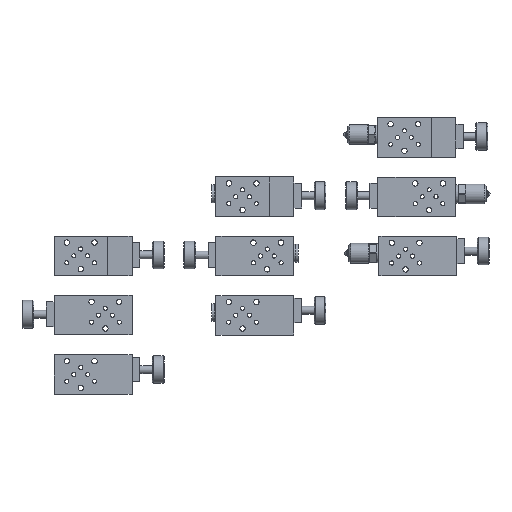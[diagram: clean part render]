
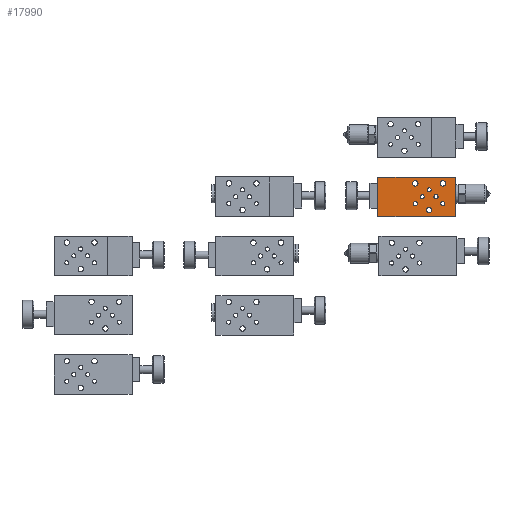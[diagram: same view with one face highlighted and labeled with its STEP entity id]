
A CAD part, top view. The second image highlights one B-rep face of the part: STEP entity #17990.
In plain terms, the highlighted planar face has unit normal (0, 0, 1).
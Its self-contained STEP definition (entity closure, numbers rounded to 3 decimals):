
#17990=ADVANCED_FACE('', (#18000,#18010,#18020,#18030,#18040,#18050,
#18060,#18070,#18080), #18090, .T.);
#89600=AXIS2_PLACEMENT_3D('Ax2Pl3d', #89610, #89620, #89630);
#89840=AXIS2_PLACEMENT_3D('Ax2Pl3d', #89850, #89860, #89870);
#90080=AXIS2_PLACEMENT_3D('Ax2Pl3d', #90090, #90100, #90110);
#90320=AXIS2_PLACEMENT_3D('Ax2Pl3d', #90330, #90340, #90350);
#90560=AXIS2_PLACEMENT_3D('Ax2Pl3d', #90570, #90580, #90590);
#90600=AXIS2_PLACEMENT_3D('Ax2Pl3d', #90610, #90620, #90630);
#90640=AXIS2_PLACEMENT_3D('Ax2Pl3d', #90650, #90660, #90670);
#90680=AXIS2_PLACEMENT_3D('Ax2Pl3d', #90690, #90700, #90710);
#90720=AXIS2_PLACEMENT_3D('Ax2Pl3d', #90730, #90740, #90750);
#193450=CARTESIAN_POINT('', (301.,160.,80.))
;
#193460=CARTESIAN_POINT('', (301.,160.,80.))
;
#193470=CARTESIAN_POINT('', (301.,200.,80.))
;
#89610=CARTESIAN_POINT('HicPkt', (367.,173.,
80.));
#193680=CARTESIAN_POINT('', (367.,175.1,80.))
;
#89850=CARTESIAN_POINT('HicPkt', (360.,180.,
80.));
#193710=CARTESIAN_POINT('', (360.,182.1,80.))
;
#90090=CARTESIAN_POINT('HicPkt', (353.,187.,
80.));
#193740=CARTESIAN_POINT('', (353.,189.1,80.))
;
#90330=CARTESIAN_POINT('HicPkt', (346.,180.,
80.));
#193770=CARTESIAN_POINT('', (346.,182.1,80.))
;
#90570=CARTESIAN_POINT('HicPkt', (339.,173.,
80.));
#193800=CARTESIAN_POINT('', (339.,175.1,80.))
;
#90610=CARTESIAN_POINT('HicPkt', (301.,200.,
80.));
#193810=CARTESIAN_POINT('', (301.,160.,80.))
;
#193820=CARTESIAN_POINT('', (380.,160.,80.))
;
#193830=CARTESIAN_POINT('', (380.,200.,80.))
;
#193840=CARTESIAN_POINT('', (380.,200.,80.))
;
#193850=CARTESIAN_POINT('', (380.,200.,80.))
;
#90650=CARTESIAN_POINT('HicPkt', (367.,193.5,
80.));
#193860=CARTESIAN_POINT('', (367.,196.25,80.))
;
#90690=CARTESIAN_POINT('HicPkt', (339.,193.5,
80.));
#193870=CARTESIAN_POINT('', (339.,196.25,80.))
;
#90730=CARTESIAN_POINT('HicPkt', (353.,166.5,
80.));
#193880=CARTESIAN_POINT('', (353.,169.25,80.))
;
#217210=CIRCLE('Circle', #89600, 2.1);
#217240=CIRCLE('Circle', #89840, 2.1);
#217270=CIRCLE('Circle', #90080, 2.1);
#217300=CIRCLE('Circle', #90320, 2.1);
#217330=CIRCLE('Circle', #90560, 2.1);
#217340=CIRCLE('Circle', #90640, 2.75);
#217350=CIRCLE('Circle', #90680, 2.75);
#217360=CIRCLE('Circle', #90720, 2.75);
#233430=DIRECTION('', (0.,-1.,0.));
#89620=DIRECTION('Axis', (0.,0.,1.));
#89630=DIRECTION('RefDirection', (1.,0.,0.));
#89860=DIRECTION('Axis', (0.,0.,1.));
#89870=DIRECTION('RefDirection', (1.,0.,0.));
#90100=DIRECTION('Axis', (0.,0.,1.));
#90110=DIRECTION('RefDirection', (1.,0.,0.));
#90340=DIRECTION('Axis', (0.,0.,1.));
#90350=DIRECTION('RefDirection', (1.,0.,0.));
#90580=DIRECTION('Axis', (0.,0.,1.));
#90590=DIRECTION('RefDirection', (1.,0.,0.));
#90620=DIRECTION('Axis', (0.,0.,1.));
#90630=DIRECTION('RefDirection', (1.,0.,0.));
#233480=DIRECTION('', (-1.,0.,0.));
#233490=DIRECTION('', (0.,1.,0.));
#233500=DIRECTION('', (1.,0.,0.));
#90660=DIRECTION('Axis', (0.,0.,-1.));
#90670=DIRECTION('RefDirection', (-1.,0.,0.));
#90700=DIRECTION('Axis', (0.,0.,-1.));
#90710=DIRECTION('RefDirection', (-1.,0.,0.));
#90740=DIRECTION('Axis', (0.,0.,-1.));
#90750=DIRECTION('RefDirection', (-1.,0.,0.));
#257680=EDGE_CURVE('', #257690, #257660, #257700, .T.);
#258090=EDGE_CURVE('', #258100, #258100, #217210, .T.);
#258150=EDGE_CURVE('', #258160, #258160, #217240, .T.);
#258210=EDGE_CURVE('', #258220, #258220, #217270, .T.);
#258270=EDGE_CURVE('', #258280, #258280, #217300, .T.);
#258330=EDGE_CURVE('', #258340, #258340, #217330, .T.);
#258350=EDGE_CURVE('', #258360, #257660, #258370, .T.);
#258380=EDGE_CURVE('', #258360, #258390, #258400, .T.);
#258410=EDGE_CURVE('', #257690, #258390, #258420, .T.);
#258430=EDGE_CURVE('', #258440, #258440, #217340, .T.);
#258450=EDGE_CURVE('', #258460, #258460, #217350, .T.);
#258470=EDGE_CURVE('', #258480, #258480, #217360, .T.);
#316130=EDGE_LOOP('Edge_loop', (#316140,#316150,#316160,#316170));
#316180=EDGE_LOOP('Edge_loop', (#316190));
#316200=EDGE_LOOP('Edge_loop', (#316210));
#316220=EDGE_LOOP('Edge_loop', (#316230));
#316240=EDGE_LOOP('Edge_loop', (#316250));
#316260=EDGE_LOOP('Edge_loop', (#316270));
#316280=EDGE_LOOP('Edge_loop', (#316290));
#316300=EDGE_LOOP('Edge_loop', (#316310));
#316320=EDGE_LOOP('Edge_loop', (#316330));
#18010=FACE_BOUND('', #316180, .T.);
#18020=FACE_BOUND('', #316200, .T.);
#18030=FACE_BOUND('', #316220, .T.);
#18040=FACE_BOUND('', #316240, .T.);
#18050=FACE_BOUND('', #316260, .T.);
#18060=FACE_BOUND('', #316280, .T.);
#18070=FACE_BOUND('', #316300, .T.);
#18080=FACE_BOUND('', #316320, .T.);
#18000=FACE_OUTER_BOUND('Face_outer_bound', #316130, .T.);
#257700=LINE('Line', #193460, #366780);
#258370=LINE('Line', #193810, #366830);
#258400=LINE('Line', #193830, #366840);
#258420=LINE('Line', #193850, #366850);
#316140=ORIENTED_EDGE('', *, *, #257680, .T.);
#316150=ORIENTED_EDGE('', *, *, #258350, .F.);
#316160=ORIENTED_EDGE('', *, *, #258380, .T.);
#316170=ORIENTED_EDGE('', *, *, #258410, .F.);
#316190=ORIENTED_EDGE('', *, *, #258090, .F.);
#316210=ORIENTED_EDGE('', *, *, #258150, .F.);
#316230=ORIENTED_EDGE('', *, *, #258210, .F.);
#316250=ORIENTED_EDGE('', *, *, #258270, .F.);
#316270=ORIENTED_EDGE('', *, *, #258330, .F.);
#316290=ORIENTED_EDGE('', *, *, #258430, .T.);
#316310=ORIENTED_EDGE('', *, *, #258450, .T.);
#316330=ORIENTED_EDGE('', *, *, #258470, .T.);
#18090=PLANE('Plane', #90600);
#366780=VECTOR('', #233430, 40.);
#366830=VECTOR('', #233480, 79.);
#366840=VECTOR('', #233490, 40.);
#366850=VECTOR('', #233500, 79.);
#257660=VERTEX_POINT('', #193450);
#257690=VERTEX_POINT('', #193470);
#258100=VERTEX_POINT('', #193680);
#258160=VERTEX_POINT('', #193710);
#258220=VERTEX_POINT('', #193740);
#258280=VERTEX_POINT('', #193770);
#258340=VERTEX_POINT('', #193800);
#258360=VERTEX_POINT('', #193820);
#258390=VERTEX_POINT('', #193840);
#258440=VERTEX_POINT('', #193860);
#258460=VERTEX_POINT('', #193870);
#258480=VERTEX_POINT('', #193880);
